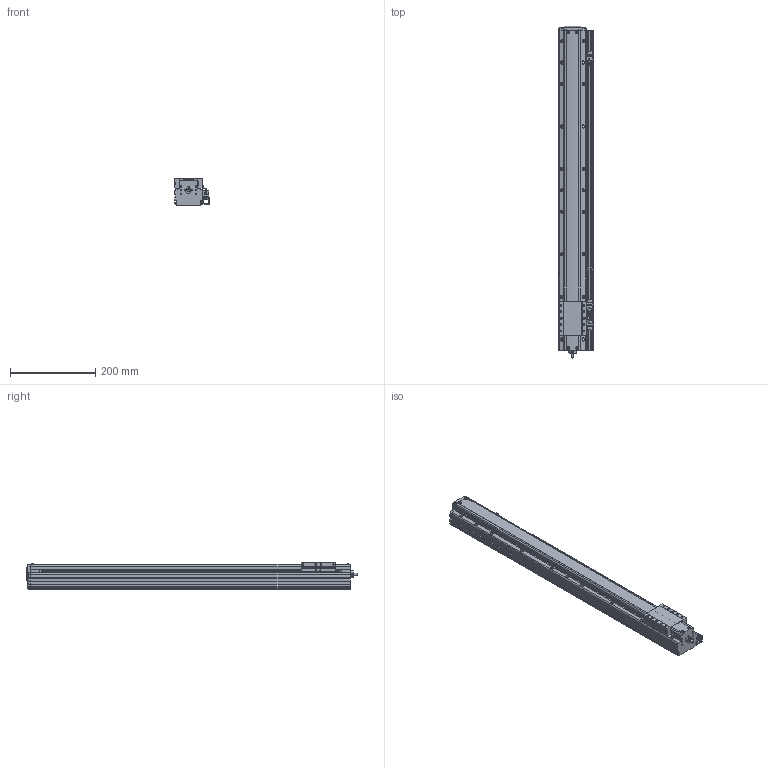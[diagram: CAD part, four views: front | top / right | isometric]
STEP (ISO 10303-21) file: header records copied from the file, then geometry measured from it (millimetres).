
FILE_DESCRIPTION(('STEP AP214'),'1');
FILE_NAME('Z:/Web/3D/PSA65/STP/PSA65-600 (3D)/PSA65ㅁㅁ-600+3SR.stp','2014-06-25T05:04:05',(' '),(' '),'Spatial InterOp 3D',' ',' ');
FILE_SCHEMA(('automotive_design'));
Length unit declared in the file: millimetre
Products named in the file (62): SLIDE; RRCV-PA060; 1; 2; 3; 4; 5; 6; 7; 8; 9; 10; 11; 12; 13; 14; 15; 16; 17; 18; 19; 20; 21; 22; 23; 24; 25; 26; 27; 28; 29; 30; 31; 스크루 : Round - M3.0 x 8.0; RN8 x 0.75; SHAFT-SAN65; BASE; 스크루 : Round - M3.0 x 6.0; EE-SX674; SBK-SX674-352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
Bounding box: 81 x 779.3 x 62 mm (x, y, z)
Volume: 2425821.6 mm3; surface area: 393619.5 mm2
Topology: 62 solids, 62 shells, 2185 faces, 5797 edges, 3724 vertices
Faces by surface type: plane 1346, cylinder 575, cone 191, sphere 42, torus 16, bspline 15
Entity records: 86563 total; most frequent: CARTESIAN_POINT 13145, DIRECTION 11600, ORIENTED_EDGE 11350, EDGE_CURVE 5675, LINE 4042, VECTOR 4042, AXIS2_PLACEMENT_3D 3779, VERTEX_POINT 3724
